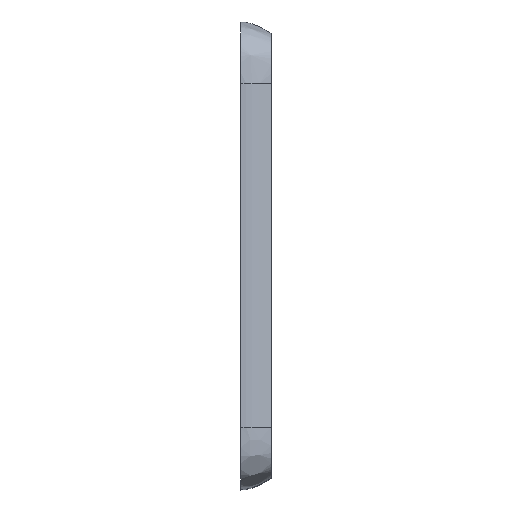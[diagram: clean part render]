
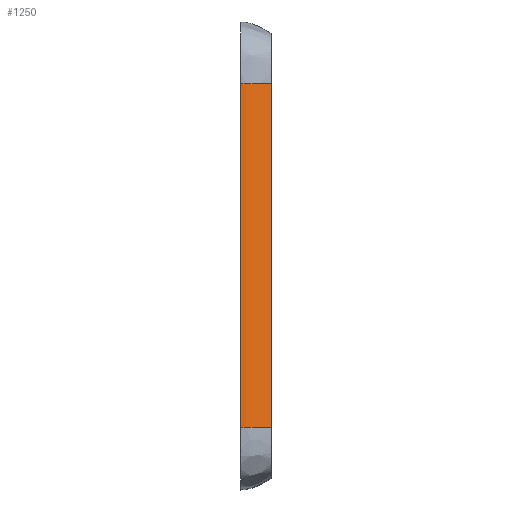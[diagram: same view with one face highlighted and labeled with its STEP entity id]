
A CAD part, top view. The second image highlights one B-rep face of the part: STEP entity #1250.
In plain terms, the highlighted free-form (B-spline) face has degree [4, 1] with [5, 2] control points.
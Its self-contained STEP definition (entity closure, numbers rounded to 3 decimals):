
#18=(
BOUNDED_SURFACE()
B_SPLINE_SURFACE(4,1,((#4098,#4099),(#4100,#4101),(#4102,#4103),(#4104,
#4105),(#4106,#4107)),.UNSPECIFIED.,.F.,.F.,.F.)
B_SPLINE_SURFACE_WITH_KNOTS((5,5),(2,2),(-0.59,0.),(0.,13.),
 .UNSPECIFIED.)
GEOMETRIC_REPRESENTATION_ITEM()
RATIONAL_B_SPLINE_SURFACE(((1.,1.),(1.,1.),(1.,1.),(1.,1.),(1.,1.)))
REPRESENTATION_ITEM('')
SURFACE()
);
#20=(
BOUNDED_CURVE()
B_SPLINE_CURVE(4,(#3248,#3249,#3250,#3251,#3252),.UNSPECIFIED.,.F.,.F.)
B_SPLINE_CURVE_WITH_KNOTS((5,5),(-0.59,0.),.UNSPECIFIED.)
CURVE()
GEOMETRIC_REPRESENTATION_ITEM()
RATIONAL_B_SPLINE_CURVE((1.,1.,1.,1.,1.))
REPRESENTATION_ITEM('')
);
#26=(
BOUNDED_CURVE()
B_SPLINE_CURVE(4,(#4065,#4066,#4067,#4068,#4069),.UNSPECIFIED.,.F.,.F.)
B_SPLINE_CURVE_WITH_KNOTS((5,5),(-0.59,0.),.UNSPECIFIED.)
CURVE()
GEOMETRIC_REPRESENTATION_ITEM()
RATIONAL_B_SPLINE_CURVE((1.,1.,1.,1.,1.))
REPRESENTATION_ITEM('')
);
#256=FACE_OUTER_BOUND('',#336,.T.);
#336=EDGE_LOOP('',(#1131,#1132,#1133,#1134));
#411=LINE('',#4108,#471);
#412=LINE('',#4109,#472);
#471=VECTOR('',#1515,10.);
#472=VECTOR('',#1516,10.);
#605=VERTEX_POINT('',#3233);
#606=VERTEX_POINT('',#3247);
#625=VERTEX_POINT('',#4063);
#626=VERTEX_POINT('',#4064);
#771=EDGE_CURVE('',#606,#605,#20,.T.);
#806=EDGE_CURVE('',#625,#626,#26,.T.);
#809=EDGE_CURVE('',#605,#626,#411,.T.);
#810=EDGE_CURVE('',#606,#625,#412,.T.);
#1131=ORIENTED_EDGE('',*,*,#771,.T.);
#1132=ORIENTED_EDGE('',*,*,#809,.T.);
#1133=ORIENTED_EDGE('',*,*,#806,.F.);
#1134=ORIENTED_EDGE('',*,*,#810,.F.);
#1250=ADVANCED_FACE('',(#256),#18,.T.);
#1515=DIRECTION('',(0.,-1.,0.));
#1516=DIRECTION('',(0.,-1.,0.));
#3233=CARTESIAN_POINT('',(-160.,65.,114.9));
#3247=CARTESIAN_POINT('',(-148.4,65.,110.465));
#3248=CARTESIAN_POINT('Ctrl Pts',(-148.4,65.,110.465));
#3249=CARTESIAN_POINT('Ctrl Pts',(-150.667,65.,111.964));
#3250=CARTESIAN_POINT('Ctrl Pts',(-153.336,65.,113.682));
#3251=CARTESIAN_POINT('Ctrl Pts',(-156.755,65.,114.9));
#3252=CARTESIAN_POINT('Ctrl Pts',(-160.,65.,114.9));
#4063=CARTESIAN_POINT('',(-148.4,-65.,110.465));
#4064=CARTESIAN_POINT('',(-160.,-65.,114.9));
#4065=CARTESIAN_POINT('Ctrl Pts',(-148.4,-65.,110.465));
#4066=CARTESIAN_POINT('Ctrl Pts',(-150.667,-65.,111.964));
#4067=CARTESIAN_POINT('Ctrl Pts',(-153.336,-65.,113.682));
#4068=CARTESIAN_POINT('Ctrl Pts',(-156.755,-65.,114.9));
#4069=CARTESIAN_POINT('Ctrl Pts',(-160.,-65.,114.9));
#4098=CARTESIAN_POINT('Ctrl Pts',(-148.4,65.,110.465));
#4099=CARTESIAN_POINT('Ctrl Pts',(-148.4,-65.,110.465));
#4100=CARTESIAN_POINT('Ctrl Pts',(-150.667,65.,111.964));
#4101=CARTESIAN_POINT('Ctrl Pts',(-150.667,-65.,111.964));
#4102=CARTESIAN_POINT('Ctrl Pts',(-153.336,65.,113.682));
#4103=CARTESIAN_POINT('Ctrl Pts',(-153.336,-65.,113.682));
#4104=CARTESIAN_POINT('Ctrl Pts',(-156.755,65.,114.9));
#4105=CARTESIAN_POINT('Ctrl Pts',(-156.755,-65.,114.9));
#4106=CARTESIAN_POINT('Ctrl Pts',(-160.,65.,114.9));
#4107=CARTESIAN_POINT('Ctrl Pts',(-160.,-65.,114.9));
#4108=CARTESIAN_POINT('',(-160.,65.,114.9));
#4109=CARTESIAN_POINT('',(-148.4,65.,110.465));
